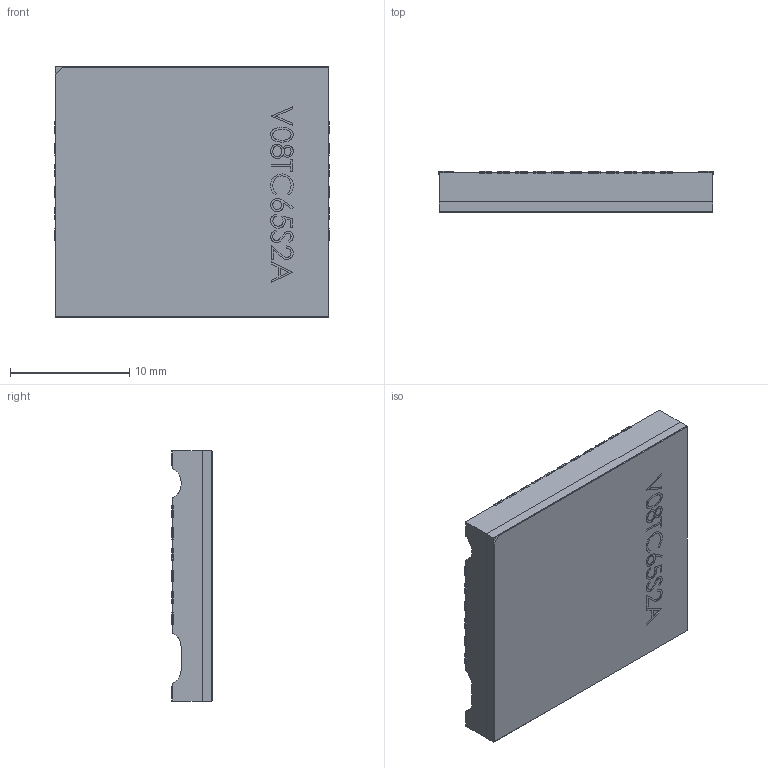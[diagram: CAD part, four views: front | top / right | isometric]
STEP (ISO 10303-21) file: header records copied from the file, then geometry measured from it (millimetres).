
FILE_DESCRIPTION (( 'STEP AP214' ), '1' );
FILE_NAME ('V08TC65S2A.STEP', '2020-10-29T10:18:40', ( '' ), ( '' ), 'SwSTEP 2.0', 'SolidWorks 2020', '' );
FILE_SCHEMA (( 'AUTOMOTIVE_DESIGN' ));
Length unit declared in the file: millimetre
Products named in the file (5): PCB_Clover 21x23; PADS_Clover 21x23; Cover_Clover 21x23; Case_Clover 21x23; V08TC65S2A
Assembly tree (4 placements, depth 2):
  V08TC65S2A
    PADS_Clover 21x23
    Case_Clover 21x23
    Cover_Clover 21x23
    PCB_Clover 21x23
Bounding box: 23.04 x 3.44 x 21 mm (x, y, z)
Volume: 1413.1 mm3; surface area: 3320.9 mm2
Topology: 37 solids, 37 shells, 368 faces, 837 edges, 558 vertices
Faces by surface type: plane 287, bspline 73, cylinder 8
Entity records: 14758 total; most frequent: CARTESIAN_POINT 6447, ORIENTED_EDGE 1674, DIRECTION 1299, EDGE_CURVE 837, VECTOR 679, LINE 679, VERTEX_POINT 558, EDGE_LOOP 383
